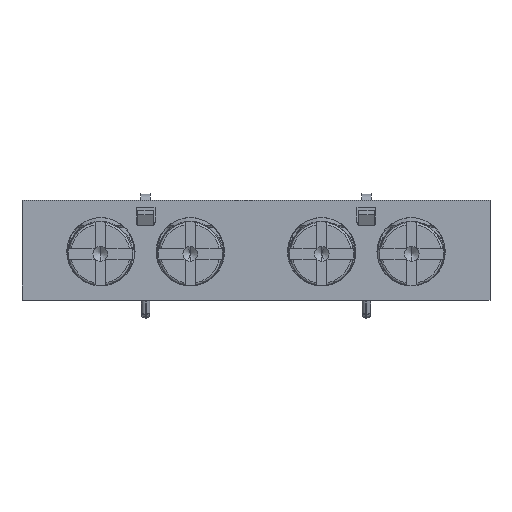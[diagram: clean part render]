
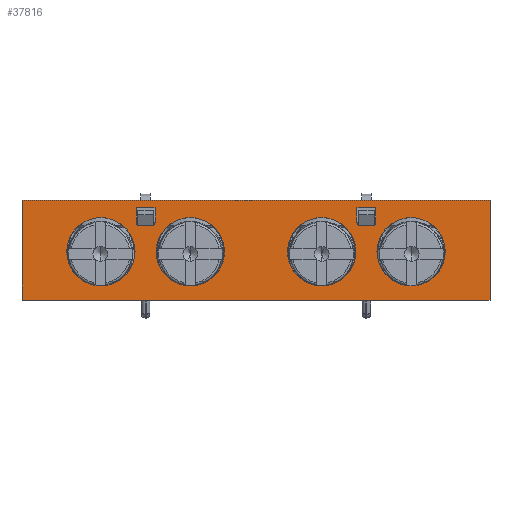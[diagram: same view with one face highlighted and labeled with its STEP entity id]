
A CAD part, left-side view. The second image highlights one B-rep face of the part: STEP entity #37816.
In plain terms, the highlighted planar face has unit normal (-1, 0, 0).
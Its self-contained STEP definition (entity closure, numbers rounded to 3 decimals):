
#2574=DIRECTION('',(0.,-1.,0.));
#2575=VECTOR('',#2574,44.5);
#2576=CARTESIAN_POINT('',(-23.4,22.25,0.2));
#2577=LINE('',#2576,#2575);
#2578=DIRECTION('',(0.,0.,1.));
#2579=VECTOR('',#2578,9.5);
#2580=CARTESIAN_POINT('',(-23.4,22.25,-9.3));
#2581=LINE('',#2580,#2579);
#2582=CARTESIAN_POINT('',(-23.4,11.1,-1.9));
#2583=DIRECTION('',(-1.,0.,0.));
#2584=DIRECTION('',(0.,1.,0.));
#2585=AXIS2_PLACEMENT_3D('',#2582,#2583,#2584);
#2587=CARTESIAN_POINT('',(-23.4,9.9,-1.9));
#2588=DIRECTION('',(-1.,0.,0.));
#2589=DIRECTION('',(0.,0.,-1.));
#2590=AXIS2_PLACEMENT_3D('',#2587,#2588,#2589);
#2592=CARTESIAN_POINT('',(-23.4,6.25,-4.7));
#2593=DIRECTION('',(-1.,0.,0.));
#2594=DIRECTION('',(0.,0.,1.));
#2595=AXIS2_PLACEMENT_3D('',#2592,#2593,#2594);
#2597=CARTESIAN_POINT('',(-23.4,6.25,-4.7));
#2598=DIRECTION('',(-1.,0.,0.));
#2599=DIRECTION('',(0.,0.,-1.));
#2600=AXIS2_PLACEMENT_3D('',#2597,#2598,#2599);
#2602=CARTESIAN_POINT('',(-23.4,14.75,-4.7));
#2603=DIRECTION('',(-1.,0.,0.));
#2604=DIRECTION('',(0.,0.,-1.));
#2605=AXIS2_PLACEMENT_3D('',#2602,#2603,#2604);
#2607=CARTESIAN_POINT('',(-23.4,14.75,-4.7));
#2608=DIRECTION('',(-1.,0.,0.));
#2609=DIRECTION('',(0.,0.,1.));
#2610=AXIS2_PLACEMENT_3D('',#2607,#2608,#2609);
#2612=CARTESIAN_POINT('',(-23.4,-6.25,-4.7));
#2613=DIRECTION('',(-1.,0.,0.));
#2614=DIRECTION('',(0.,0.,-1.));
#2615=AXIS2_PLACEMENT_3D('',#2612,#2613,#2614);
#2617=CARTESIAN_POINT('',(-23.4,-6.25,-4.7));
#2618=DIRECTION('',(-1.,0.,0.));
#2619=DIRECTION('',(0.,0.,1.));
#2620=AXIS2_PLACEMENT_3D('',#2617,#2618,#2619);
#2622=CARTESIAN_POINT('',(-23.4,-14.75,-4.7));
#2623=DIRECTION('',(-1.,0.,0.));
#2624=DIRECTION('',(0.,0.,1.));
#2625=AXIS2_PLACEMENT_3D('',#2622,#2623,#2624);
#2627=CARTESIAN_POINT('',(-23.4,-14.75,-4.7));
#2628=DIRECTION('',(-1.,0.,0.));
#2629=DIRECTION('',(0.,0.,-1.));
#2630=AXIS2_PLACEMENT_3D('',#2627,#2628,#2629);
#2632=DIRECTION('',(0.,0.,1.));
#2633=VECTOR('',#2632,1.4);
#2634=CARTESIAN_POINT('',(-23.4,-11.4,-1.9));
#2635=LINE('',#2634,#2633);
#2636=DIRECTION('',(0.,1.,0.));
#2637=VECTOR('',#2636,1.8);
#2638=CARTESIAN_POINT('',(-23.4,-11.4,-0.5));
#2639=LINE('',#2638,#2637);
#2640=DIRECTION('',(0.,0.,-1.));
#2641=VECTOR('',#2640,1.4);
#2642=CARTESIAN_POINT('',(-23.4,-9.6,-0.5));
#2643=LINE('',#2642,#2641);
#2644=CARTESIAN_POINT('',(-23.4,-9.9,-1.9));
#2645=DIRECTION('',(-1.,0.,0.));
#2646=DIRECTION('',(0.,1.,0.));
#2647=AXIS2_PLACEMENT_3D('',#2644,#2645,#2646);
#2649=DIRECTION('',(0.,-1.,0.));
#2650=VECTOR('',#2649,1.2);
#2651=CARTESIAN_POINT('',(-23.4,-9.9,-2.2));
#2652=LINE('',#2651,#2650);
#2653=CARTESIAN_POINT('',(-23.4,-11.1,-1.9));
#2654=DIRECTION('',(-1.,0.,0.));
#2655=DIRECTION('',(0.,0.,-1.));
#2656=AXIS2_PLACEMENT_3D('',#2653,#2654,#2655);
#2658=DIRECTION('',(0.,0.,1.));
#2659=VECTOR('',#2658,9.5);
#2660=CARTESIAN_POINT('',(-23.4,-22.25,-9.3));
#2661=LINE('',#2660,#2659);
#2960=DIRECTION('',(0.,-1.,0.));
#2961=VECTOR('',#2960,44.5);
#2962=CARTESIAN_POINT('',(-23.4,22.25,-9.3));
#2963=LINE('',#2962,#2961);
#22916=DIRECTION('',(0.,-1.,0.));
#22917=VECTOR('',#22916,1.8);
#22918=CARTESIAN_POINT('',(-23.4,11.4,-0.5));
#22919=LINE('',#22918,#22917);
#22924=DIRECTION('',(0.,0.,-1.));
#22925=VECTOR('',#22924,1.4);
#22926=CARTESIAN_POINT('',(-23.4,9.6,-0.5));
#22927=LINE('',#22926,#22925);
#22953=DIRECTION('',(0.,1.,0.));
#22954=VECTOR('',#22953,1.2);
#22955=CARTESIAN_POINT('',(-23.4,9.9,-2.2));
#22956=LINE('',#22955,#22954);
#22977=DIRECTION('',(0.,0.,1.));
#22978=VECTOR('',#22977,1.4);
#22979=CARTESIAN_POINT('',(-23.4,11.4,-1.9));
#22980=LINE('',#22979,#22978);
#30128=CARTESIAN_POINT('',(-23.4,-22.25,0.2));
#30129=VERTEX_POINT('',#30128);
#30130=CARTESIAN_POINT('',(-23.4,22.25,0.2));
#30131=VERTEX_POINT('',#30130);
#30174=CARTESIAN_POINT('',(-23.4,22.25,-9.3));
#30175=VERTEX_POINT('',#30174);
#30226=CARTESIAN_POINT('',(-23.4,-22.25,-9.3));
#30227=VERTEX_POINT('',#30226);
#31194=CARTESIAN_POINT('',(-23.4,-9.9,-2.2));
#31195=CARTESIAN_POINT('',(-23.4,-11.1,-2.2));
#31196=VERTEX_POINT('',#31194);
#31197=VERTEX_POINT('',#31195);
#31198=CARTESIAN_POINT('',(-23.4,11.4,-1.9));
#31199=CARTESIAN_POINT('',(-23.4,11.4,-0.5));
#31200=VERTEX_POINT('',#31198);
#31201=VERTEX_POINT('',#31199);
#31202=CARTESIAN_POINT('',(-23.4,11.1,-2.2));
#31203=VERTEX_POINT('',#31202);
#31204=CARTESIAN_POINT('',(-23.4,9.9,-2.2));
#31205=VERTEX_POINT('',#31204);
#31206=CARTESIAN_POINT('',(-23.4,9.6,-1.9));
#31207=VERTEX_POINT('',#31206);
#31208=CARTESIAN_POINT('',(-23.4,9.6,-0.5));
#31209=VERTEX_POINT('',#31208);
#31210=CARTESIAN_POINT('',(-23.4,6.25,-1.45));
#31211=CARTESIAN_POINT('',(-23.4,6.25,-7.95));
#31212=VERTEX_POINT('',#31210);
#31213=VERTEX_POINT('',#31211);
#31214=CARTESIAN_POINT('',(-23.4,14.75,-7.95));
#31215=CARTESIAN_POINT('',(-23.4,14.75,-1.45));
#31216=VERTEX_POINT('',#31214);
#31217=VERTEX_POINT('',#31215);
#31218=CARTESIAN_POINT('',(-23.4,-6.25,-7.95));
#31219=CARTESIAN_POINT('',(-23.4,-6.25,-1.45));
#31220=VERTEX_POINT('',#31218);
#31221=VERTEX_POINT('',#31219);
#31222=CARTESIAN_POINT('',(-23.4,-14.75,-1.45));
#31223=CARTESIAN_POINT('',(-23.4,-14.75,-7.95));
#31224=VERTEX_POINT('',#31222);
#31225=VERTEX_POINT('',#31223);
#31226=CARTESIAN_POINT('',(-23.4,-11.4,-1.9));
#31227=CARTESIAN_POINT('',(-23.4,-11.4,-0.5));
#31228=VERTEX_POINT('',#31226);
#31229=VERTEX_POINT('',#31227);
#31230=CARTESIAN_POINT('',(-23.4,-9.6,-0.5));
#31231=VERTEX_POINT('',#31230);
#31232=CARTESIAN_POINT('',(-23.4,-9.6,-1.9));
#31233=VERTEX_POINT('',#31232);
#37751=CARTESIAN_POINT('',(-23.4,-22.25,0.2));
#37752=DIRECTION('',(-1.,0.,0.));
#37753=DIRECTION('',(0.,1.,0.));
#37754=AXIS2_PLACEMENT_3D('',#37751,#37752,#37753);
#37755=PLANE('',#37754);
#37756=ORIENTED_EDGE('',*,*,#37303,.T.);
#37758=ORIENTED_EDGE('',*,*,#37757,.F.);
#37760=ORIENTED_EDGE('',*,*,#37759,.F.);
#37761=ORIENTED_EDGE('',*,*,#37737,.T.);
#37762=EDGE_LOOP('',(#37756,#37758,#37760,#37761));
#37763=FACE_OUTER_BOUND('',#37762,.F.);
#37765=ORIENTED_EDGE('',*,*,#37764,.F.);
#37767=ORIENTED_EDGE('',*,*,#37766,.T.);
#37769=ORIENTED_EDGE('',*,*,#37768,.F.);
#37771=ORIENTED_EDGE('',*,*,#37770,.T.);
#37773=ORIENTED_EDGE('',*,*,#37772,.F.);
#37775=ORIENTED_EDGE('',*,*,#37774,.F.);
#37776=EDGE_LOOP('',(#37765,#37767,#37769,#37771,#37773,#37775));
#37777=FACE_BOUND('',#37776,.F.);
#37779=ORIENTED_EDGE('',*,*,#37778,.T.);
#37781=ORIENTED_EDGE('',*,*,#37780,.T.);
#37782=EDGE_LOOP('',(#37779,#37781));
#37783=FACE_BOUND('',#37782,.F.);
#37785=ORIENTED_EDGE('',*,*,#37784,.T.);
#37787=ORIENTED_EDGE('',*,*,#37786,.T.);
#37788=EDGE_LOOP('',(#37785,#37787));
#37789=FACE_BOUND('',#37788,.F.);
#37791=ORIENTED_EDGE('',*,*,#37790,.T.);
#37793=ORIENTED_EDGE('',*,*,#37792,.T.);
#37794=EDGE_LOOP('',(#37791,#37793));
#37795=FACE_BOUND('',#37794,.F.);
#37797=ORIENTED_EDGE('',*,*,#37796,.T.);
#37799=ORIENTED_EDGE('',*,*,#37798,.T.);
#37800=EDGE_LOOP('',(#37797,#37799));
#37801=FACE_BOUND('',#37800,.F.);
#37803=ORIENTED_EDGE('',*,*,#37802,.T.);
#37805=ORIENTED_EDGE('',*,*,#37804,.T.);
#37807=ORIENTED_EDGE('',*,*,#37806,.T.);
#37809=ORIENTED_EDGE('',*,*,#37808,.T.);
#37811=ORIENTED_EDGE('',*,*,#37810,.T.);
#37813=ORIENTED_EDGE('',*,*,#37812,.T.);
#37814=EDGE_LOOP('',(#37803,#37805,#37807,#37809,#37811,#37813));
#37815=FACE_BOUND('',#37814,.F.);
#37816=ADVANCED_FACE('',(#37763,#37777,#37783,#37789,#37795,#37801,#37815),
#37755,.T.);
#2586=CIRCLE('',#2585,0.3);
#2591=CIRCLE('',#2590,0.3);
#2596=CIRCLE('',#2595,3.25);
#2601=CIRCLE('',#2600,3.25);
#2606=CIRCLE('',#2605,3.25);
#2611=CIRCLE('',#2610,3.25);
#2616=CIRCLE('',#2615,3.25);
#2621=CIRCLE('',#2620,3.25);
#2626=CIRCLE('',#2625,3.25);
#2631=CIRCLE('',#2630,3.25);
#2648=CIRCLE('',#2647,0.3);
#2657=CIRCLE('',#2656,0.3);
#37303=EDGE_CURVE('',#30131,#30129,#2577,.T.);
#37737=EDGE_CURVE('',#30175,#30131,#2581,.T.);
#37757=EDGE_CURVE('',#30227,#30129,#2661,.T.);
#37759=EDGE_CURVE('',#30175,#30227,#2963,.T.);
#37764=EDGE_CURVE('',#31200,#31201,#22980,.T.);
#37766=EDGE_CURVE('',#31200,#31203,#2586,.T.);
#37768=EDGE_CURVE('',#31205,#31203,#22956,.T.);
#37770=EDGE_CURVE('',#31205,#31207,#2591,.T.);
#37772=EDGE_CURVE('',#31209,#31207,#22927,.T.);
#37774=EDGE_CURVE('',#31201,#31209,#22919,.T.);
#37778=EDGE_CURVE('',#31212,#31213,#2596,.T.);
#37780=EDGE_CURVE('',#31213,#31212,#2601,.T.);
#37784=EDGE_CURVE('',#31216,#31217,#2606,.T.);
#37786=EDGE_CURVE('',#31217,#31216,#2611,.T.);
#37790=EDGE_CURVE('',#31220,#31221,#2616,.T.);
#37792=EDGE_CURVE('',#31221,#31220,#2621,.T.);
#37796=EDGE_CURVE('',#31224,#31225,#2626,.T.);
#37798=EDGE_CURVE('',#31225,#31224,#2631,.T.);
#37802=EDGE_CURVE('',#31228,#31229,#2635,.T.);
#37804=EDGE_CURVE('',#31229,#31231,#2639,.T.);
#37806=EDGE_CURVE('',#31231,#31233,#2643,.T.);
#37808=EDGE_CURVE('',#31233,#31196,#2648,.T.);
#37810=EDGE_CURVE('',#31196,#31197,#2652,.T.);
#37812=EDGE_CURVE('',#31197,#31228,#2657,.T.);
